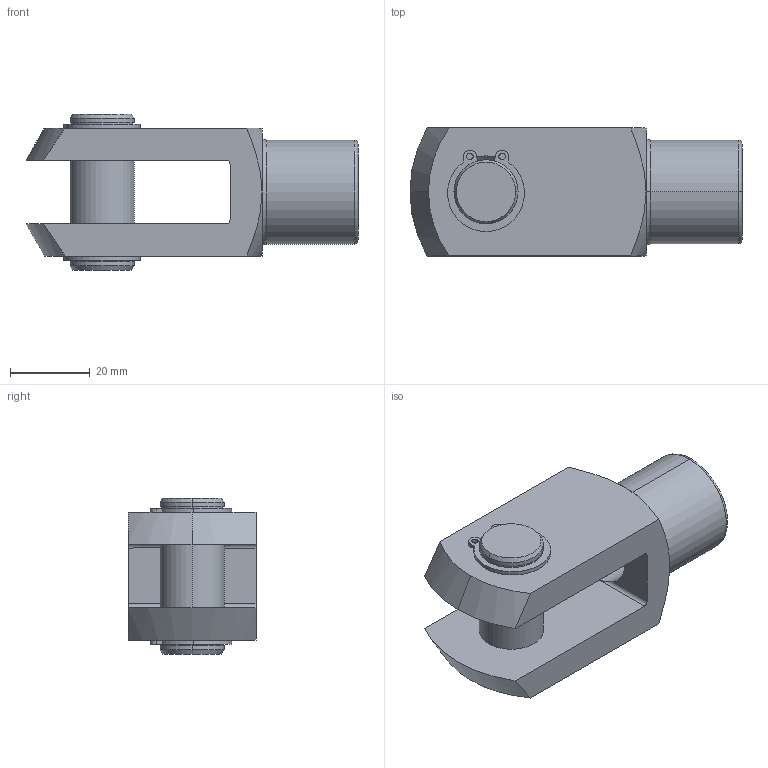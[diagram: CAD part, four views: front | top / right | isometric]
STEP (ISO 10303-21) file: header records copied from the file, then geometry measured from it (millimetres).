
FILE_DESCRIPTION (( 'STEP AP203' ), '1' );
FILE_NAME ('Default.step', '2014-01-18T10:29:53', ( 'User' ), ( '' ), 'SwSTEP 2.0', 'SolidWorks 2009', '' );
FILE_SCHEMA (( 'CONFIG_CONTROL_DESIGN' ));
Length unit declared in the file: millimetre
Products named in the file (4): Default; Part1; Part2; Part3
Assembly tree (4 placements, depth 2):
  Default
    Part3  x2
    Part2
    Part1
Bounding box: 83 x 32 x 39 mm (x, y, z)
Volume: 43068.3 mm3; surface area: 16469.3 mm2
Topology: 4 solids, 4 shells, 95 faces, 227 edges, 144 vertices
Faces by surface type: cylinder 46, plane 28, cone 17, torus 4
Entity records: 2787 total; most frequent: CARTESIAN_POINT 519, DIRECTION 423, ORIENTED_EDGE 358, EDGE_CURVE 179, AXIS2_PLACEMENT_3D 176, VERTEX_POINT 112, CIRCLE 92, EDGE_LOOP 91
